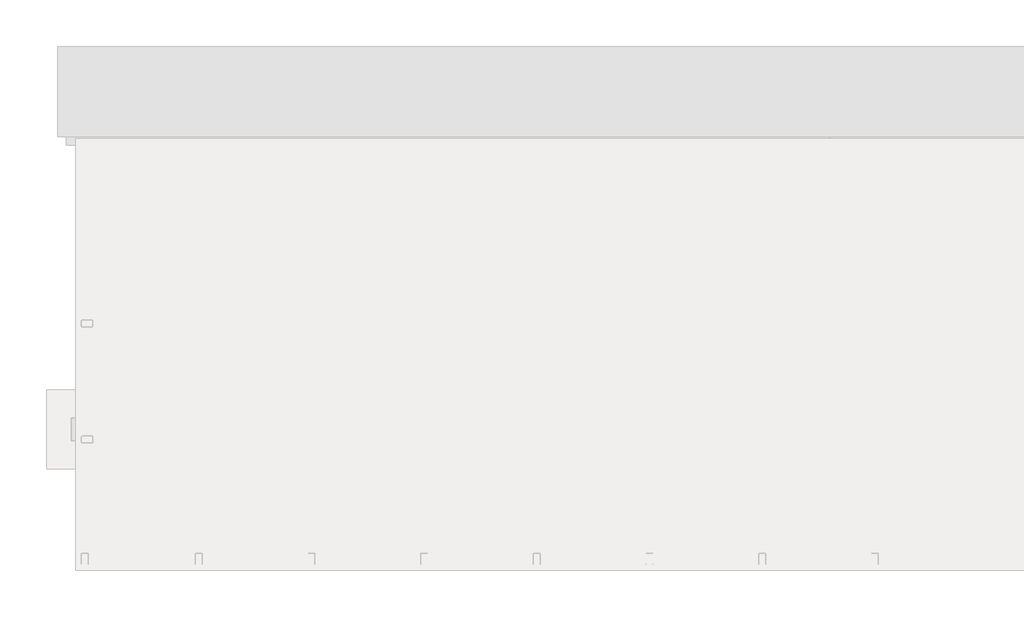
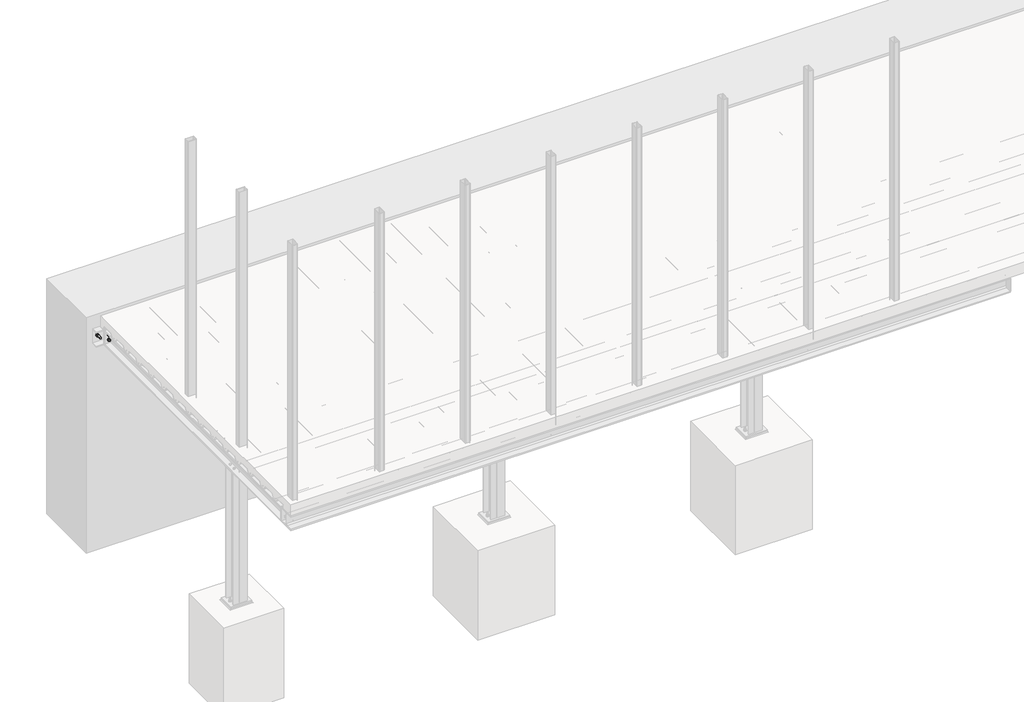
# One storey, part 9 of 36: 9 proxies.
"""IFC4 building model written with IfcOpenShell, lengths in millimetres."""

from ifc_helpers import new_model, si_unit, point, frame, frame_2d, origin, place, context, project, spatial, polyline, circle_curve, trimmed, segment, composite_curve, outline, extrude, element, save

model = new_model("IFC4")

# Units and contexts
model_context = context("Model", 3, world=origin())
ifc_project = project(units=[si_unit("LENGTHUNIT", "METRE", prefix="MILLI")], contexts=[model_context])

# Site, building, storey
site = spatial("IfcSite", under=ifc_project)
building = spatial("IfcBuilding", under=site)
storey = spatial("IfcBuildingStorey", under=building, Name="Základy", Elevation=-1200.0)

# Proxies
placement = place(None, origin())
element("IfcBuildingElementProxy", 1, Name="PLECH", ObjectType="PLECH", at=placement, inside=storey, context=model_context, shape_type="SweptSolid", body=[
    extrude(outline(polyline([(5940.0, 1200.0), (5940.0, 1320.0), (5950.0, 1320.0), (5950.0, 1200.0), (5940.0, 1200.0)])), frame((0.0, 0.0, -299.0), z_axis=(0.0, 0.0, 1.0), x_axis=(1.0, 0.0, 0.0)), (0.0, 0.0, 1.0), 98.0),
])
element("IfcBuildingElementProxy", 2, Name="PLECH", ObjectType="PLECH", at=placement, inside=storey, context=model_context, shape_type="SweptSolid", body=[
    extrude(outline(polyline([(2960.0, 3775.0), (3140.0, 3775.0), (3140.0, 3767.0), (2960.0, 3767.0), (2960.0, 3775.0)])), frame((0.0, 0.0, -316.0), z_axis=(0.0, 0.0, 1.0), x_axis=(1.0, 0.0, 0.0)), (0.0, 0.0, 1.0), 132.0),
])
element("IfcBuildingElementProxy", 3, Name="PLECH", ObjectType="PLECH", at=placement, inside=storey, context=model_context, shape_type="SweptSolid", body=[
    extrude(outline(polyline([(5950.0, 1200.0), (5950.0, 1320.0), (5960.0, 1320.0), (5960.0, 1200.0), (5950.0, 1200.0)])), frame((0.0, 0.0, -332.0), z_axis=(0.0, 0.0, 1.0), x_axis=(1.0, 0.0, 0.0)), (0.0, 0.0, 1.0), 164.0),
])
element("IfcBuildingElementProxy", 4, Name="PLECH", ObjectType="PLECH", at=placement, inside=storey, context=model_context, shape_type="SweptSolid", body=[
    extrude(outline(composite_curve([segment(polyline([(3785.0, -170.5), (3834.5, -170.5)]), True, "CONTINUOUS"), segment(trimmed(circle_curve(frame_2d((3854.5, -170.5)), 20.0), [point((3834.5, -170.5))], [point((3854.5, -190.5))], True, "CARTESIAN"), True, "CONTINUOUS"), segment(polyline([(3854.5, -190.5), (3854.5, -309.5)]), True, "CONTINUOUS"), segment(trimmed(circle_curve(frame_2d((3854.5, -329.5)), 20.0), [point((3854.5, -309.5))], [point((3834.5, -329.5))], True, "CARTESIAN"), True, "CONTINUOUS"), segment(polyline([(3834.5, -329.5), (3785.0, -329.5), (3785.0, -170.5)]), True, "CONTINUOUS")], self_intersect=False)), frame((3046.0, 0.0, 0.0), z_axis=(1.0, 0.0, 0.0), x_axis=(0.0, 1.0, 0.0)), (0.0, 0.0, 1.0), 8.0),
])
element("IfcBuildingElementProxy", 5, Name="PLECH", ObjectType="PLECH", at=placement, inside=storey, context=model_context, shape_type="SweptSolid", body=[
    extrude(outline(polyline([(2960.0, 3785.0), (3140.0, 3785.0), (3140.0, 3775.0), (2960.0, 3775.0), (2960.0, 3785.0)])), frame((0.0, 0.0, -332.0), z_axis=(0.0, 0.0, 1.0), x_axis=(1.0, 0.0, 0.0)), (0.0, 0.0, 1.0), 164.0),
])
element("IfcBuildingElementProxy", 6, Name="Bolt assembly", ObjectType="Bolt assembly", at=placement, inside=storey, context=model_context, shape_type="SweptSolid", body=[
    extrude(outline(composite_curve([segment(trimmed(circle_curve(frame_2d((-220.0, 3005.0)), 9.0), [point((-220.0, 3014.0))], [point((-220.0, 2996.0))], False, "CARTESIAN"), True, "CONTINUOUS"), segment(trimmed(circle_curve(frame_2d((-220.0, 3005.0)), 9.0), [point((-220.0, 2996.0))], [point((-220.0, 3014.0))], False, "CARTESIAN"), True, "CONTINUOUS")], self_intersect=False)), frame((0.0, 3774.9, 0.0), z_axis=(0.0, 1.0, 0.0), x_axis=(0.0, 0.0, 1.0)), (0.0, 0.0, 1.0), 10.0),
    extrude(outline(polyline([(-220.0, 3018.8564065), (-208.0, 3011.9282032), (-208.0, 2998.0717968), (-220.0, 2991.1435935), (-232.0, 2998.0717968), (-232.0, 3011.9282032), (-220.0, 3018.8564065)])), frame((0.0, 3788.0, 0.0), z_axis=(0.0, 1.0, 0.0), x_axis=(0.0, 0.0, 1.0)), (0.0, 0.0, 1.0), 10.0),
    extrude(outline(composite_curve([segment(trimmed(circle_curve(frame_2d((-220.0, 3005.0)), 8.0), [point((-220.0, 3013.0))], [point((-220.0, 2997.0))], False, "CARTESIAN"), True, "CONTINUOUS"), segment(trimmed(circle_curve(frame_2d((-220.0, 3005.0)), 8.0), [point((-220.0, 2997.0))], [point((-220.0, 3013.0))], False, "CARTESIAN"), True, "CONTINUOUS")], self_intersect=False)), frame((0.0, 3738.0, 0.0), z_axis=(0.0, 1.0, 0.0), x_axis=(0.0, 0.0, 1.0)), (0.0, 0.0, 1.0), 50.0),
    extrude(outline(composite_curve([segment(trimmed(circle_curve(frame_2d((-220.0, 3005.0)), 15.0), [point((-220.0, 3020.0))], [point((-220.0, 2990.0))], False, "CARTESIAN"), True, "CONTINUOUS"), segment(trimmed(circle_curve(frame_2d((-220.0, 3005.0)), 15.0), [point((-220.0, 2990.0))], [point((-220.0, 3020.0))], False, "CARTESIAN"), True, "CONTINUOUS")], self_intersect=False)), frame((0.0, 3785.0, 0.0), z_axis=(0.0, 1.0, 0.0), x_axis=(0.0, 0.0, 1.0)), (0.0, 0.0, 1.0), 3.0),
    extrude(outline(composite_curve([segment(trimmed(circle_curve(frame_2d((-220.0, 3005.0)), 15.0), [point((-220.0, 3020.0))], [point((-220.0, 2990.0))], False, "CARTESIAN"), True, "CONTINUOUS"), segment(trimmed(circle_curve(frame_2d((-220.0, 3005.0)), 15.0), [point((-220.0, 2990.0))], [point((-220.0, 3020.0))], False, "CARTESIAN"), True, "CONTINUOUS")], self_intersect=False)), frame((0.0, 3764.0, 0.0), z_axis=(0.0, 1.0, 0.0), x_axis=(0.0, 0.0, 1.0)), (0.0, 0.0, 1.0), 3.0),
    extrude(outline(polyline([(-220.0, 3020.4441197), (-206.625, 3012.7220599), (-206.625, 2997.2779401), (-220.0, 2989.5558803), (-233.375, 2997.2779401), (-233.375, 3012.7220599), (-220.0, 3020.4441197)])), frame((0.0, 3751.0, 0.0), z_axis=(0.0, 1.0, 0.0), x_axis=(0.0, 0.0, 1.0)), (0.0, 0.0, 1.0), 13.0),
    extrude(outline(composite_curve([segment(trimmed(circle_curve(frame_2d((-220.0, 3005.0)), 9.0), [point((-220.0, 3014.0))], [point((-220.0, 2996.0))], False, "CARTESIAN"), True, "CONTINUOUS"), segment(trimmed(circle_curve(frame_2d((-220.0, 3005.0)), 9.0), [point((-220.0, 2996.0))], [point((-220.0, 3014.0))], False, "CARTESIAN"), True, "CONTINUOUS")], self_intersect=False)), frame((0.0, 3767.0, 0.0), z_axis=(0.0, 1.0, 0.0), x_axis=(0.0, 0.0, 1.0)), (0.0, 0.0, 1.0), 8.1),
    extrude(outline(composite_curve([segment(trimmed(circle_curve(frame_2d((-220.0, 3095.0)), 9.0), [point((-220.0, 3104.0))], [point((-220.0, 3086.0))], False, "CARTESIAN"), True, "CONTINUOUS"), segment(trimmed(circle_curve(frame_2d((-220.0, 3095.0)), 9.0), [point((-220.0, 3086.0))], [point((-220.0, 3104.0))], False, "CARTESIAN"), True, "CONTINUOUS")], self_intersect=False)), frame((0.0, 3774.9, 0.0), z_axis=(0.0, 1.0, 0.0), x_axis=(0.0, 0.0, 1.0)), (0.0, 0.0, 1.0), 10.0),
    extrude(outline(polyline([(-220.0, 3108.8564065), (-208.0, 3101.9282032), (-208.0, 3088.0717968), (-220.0, 3081.1435935), (-232.0, 3088.0717968), (-232.0, 3101.9282032), (-220.0, 3108.8564065)])), frame((0.0, 3788.0, 0.0), z_axis=(0.0, 1.0, 0.0), x_axis=(0.0, 0.0, 1.0)), (0.0, 0.0, 1.0), 10.0),
    extrude(outline(composite_curve([segment(trimmed(circle_curve(frame_2d((-220.0, 3095.0)), 8.0), [point((-220.0, 3103.0))], [point((-220.0, 3087.0))], False, "CARTESIAN"), True, "CONTINUOUS"), segment(trimmed(circle_curve(frame_2d((-220.0, 3095.0)), 8.0), [point((-220.0, 3087.0))], [point((-220.0, 3103.0))], False, "CARTESIAN"), True, "CONTINUOUS")], self_intersect=False)), frame((0.0, 3738.0, 0.0), z_axis=(0.0, 1.0, 0.0), x_axis=(0.0, 0.0, 1.0)), (0.0, 0.0, 1.0), 50.0),
    extrude(outline(composite_curve([segment(trimmed(circle_curve(frame_2d((-220.0, 3095.0)), 15.0), [point((-220.0, 3110.0))], [point((-220.0, 3080.0))], False, "CARTESIAN"), True, "CONTINUOUS"), segment(trimmed(circle_curve(frame_2d((-220.0, 3095.0)), 15.0), [point((-220.0, 3080.0))], [point((-220.0, 3110.0))], False, "CARTESIAN"), True, "CONTINUOUS")], self_intersect=False)), frame((0.0, 3785.0, 0.0), z_axis=(0.0, 1.0, 0.0), x_axis=(0.0, 0.0, 1.0)), (0.0, 0.0, 1.0), 3.0),
    extrude(outline(composite_curve([segment(trimmed(circle_curve(frame_2d((-220.0, 3095.0)), 15.0), [point((-220.0, 3110.0))], [point((-220.0, 3080.0))], False, "CARTESIAN"), True, "CONTINUOUS"), segment(trimmed(circle_curve(frame_2d((-220.0, 3095.0)), 15.0), [point((-220.0, 3080.0))], [point((-220.0, 3110.0))], False, "CARTESIAN"), True, "CONTINUOUS")], self_intersect=False)), frame((0.0, 3764.0, 0.0), z_axis=(0.0, 1.0, 0.0), x_axis=(0.0, 0.0, 1.0)), (0.0, 0.0, 1.0), 3.0),
    extrude(outline(polyline([(-220.0, 3110.4441197), (-206.625, 3102.7220599), (-206.625, 3087.2779401), (-220.0, 3079.5558803), (-233.375, 3087.2779401), (-233.375, 3102.7220599), (-220.0, 3110.4441197)])), frame((0.0, 3751.0, 0.0), z_axis=(0.0, 1.0, 0.0), x_axis=(0.0, 0.0, 1.0)), (0.0, 0.0, 1.0), 13.0),
    extrude(outline(composite_curve([segment(trimmed(circle_curve(frame_2d((-220.0, 3095.0)), 9.0), [point((-220.0, 3104.0))], [point((-220.0, 3086.0))], False, "CARTESIAN"), True, "CONTINUOUS"), segment(trimmed(circle_curve(frame_2d((-220.0, 3095.0)), 9.0), [point((-220.0, 3086.0))], [point((-220.0, 3104.0))], False, "CARTESIAN"), True, "CONTINUOUS")], self_intersect=False)), frame((0.0, 3767.0, 0.0), z_axis=(0.0, 1.0, 0.0), x_axis=(0.0, 0.0, 1.0)), (0.0, 0.0, 1.0), 8.1),
    extrude(outline(composite_curve([segment(trimmed(circle_curve(frame_2d((-280.0, 3005.0)), 9.0), [point((-280.0, 3014.0))], [point((-280.0, 2996.0))], False, "CARTESIAN"), True, "CONTINUOUS"), segment(trimmed(circle_curve(frame_2d((-280.0, 3005.0)), 9.0), [point((-280.0, 2996.0))], [point((-280.0, 3014.0))], False, "CARTESIAN"), True, "CONTINUOUS")], self_intersect=False)), frame((0.0, 3774.9, 0.0), z_axis=(0.0, 1.0, 0.0), x_axis=(0.0, 0.0, 1.0)), (0.0, 0.0, 1.0), 10.0),
    extrude(outline(polyline([(-280.0, 3018.8564065), (-268.0, 3011.9282032), (-268.0, 2998.0717968), (-280.0, 2991.1435935), (-292.0, 2998.0717968), (-292.0, 3011.9282032), (-280.0, 3018.8564065)])), frame((0.0, 3788.0, 0.0), z_axis=(0.0, 1.0, 0.0), x_axis=(0.0, 0.0, 1.0)), (0.0, 0.0, 1.0), 10.0),
    extrude(outline(composite_curve([segment(trimmed(circle_curve(frame_2d((-280.0, 3005.0)), 8.0), [point((-280.0, 3013.0))], [point((-280.0, 2997.0))], False, "CARTESIAN"), True, "CONTINUOUS"), segment(trimmed(circle_curve(frame_2d((-280.0, 3005.0)), 8.0), [point((-280.0, 2997.0))], [point((-280.0, 3013.0))], False, "CARTESIAN"), True, "CONTINUOUS")], self_intersect=False)), frame((0.0, 3738.0, 0.0), z_axis=(0.0, 1.0, 0.0), x_axis=(0.0, 0.0, 1.0)), (0.0, 0.0, 1.0), 50.0),
    extrude(outline(composite_curve([segment(trimmed(circle_curve(frame_2d((-280.0, 3005.0)), 15.0), [point((-280.0, 3020.0))], [point((-280.0, 2990.0))], False, "CARTESIAN"), True, "CONTINUOUS"), segment(trimmed(circle_curve(frame_2d((-280.0, 3005.0)), 15.0), [point((-280.0, 2990.0))], [point((-280.0, 3020.0))], False, "CARTESIAN"), True, "CONTINUOUS")], self_intersect=False)), frame((0.0, 3785.0, 0.0), z_axis=(0.0, 1.0, 0.0), x_axis=(0.0, 0.0, 1.0)), (0.0, 0.0, 1.0), 3.0),
    extrude(outline(composite_curve([segment(trimmed(circle_curve(frame_2d((-280.0, 3005.0)), 15.0), [point((-280.0, 3020.0))], [point((-280.0, 2990.0))], False, "CARTESIAN"), True, "CONTINUOUS"), segment(trimmed(circle_curve(frame_2d((-280.0, 3005.0)), 15.0), [point((-280.0, 2990.0))], [point((-280.0, 3020.0))], False, "CARTESIAN"), True, "CONTINUOUS")], self_intersect=False)), frame((0.0, 3764.0, 0.0), z_axis=(0.0, 1.0, 0.0), x_axis=(0.0, 0.0, 1.0)), (0.0, 0.0, 1.0), 3.0),
    extrude(outline(polyline([(-280.0, 3020.4441197), (-266.625, 3012.7220599), (-266.625, 2997.2779401), (-280.0, 2989.5558803), (-293.375, 2997.2779401), (-293.375, 3012.7220599), (-280.0, 3020.4441197)])), frame((0.0, 3751.0, 0.0), z_axis=(0.0, 1.0, 0.0), x_axis=(0.0, 0.0, 1.0)), (0.0, 0.0, 1.0), 13.0),
    extrude(outline(composite_curve([segment(trimmed(circle_curve(frame_2d((-280.0, 3005.0)), 9.0), [point((-280.0, 3014.0))], [point((-280.0, 2996.0))], False, "CARTESIAN"), True, "CONTINUOUS"), segment(trimmed(circle_curve(frame_2d((-280.0, 3005.0)), 9.0), [point((-280.0, 2996.0))], [point((-280.0, 3014.0))], False, "CARTESIAN"), True, "CONTINUOUS")], self_intersect=False)), frame((0.0, 3767.0, 0.0), z_axis=(0.0, 1.0, 0.0), x_axis=(0.0, 0.0, 1.0)), (0.0, 0.0, 1.0), 8.1),
    extrude(outline(composite_curve([segment(trimmed(circle_curve(frame_2d((-280.0, 3095.0)), 9.0), [point((-280.0, 3104.0))], [point((-280.0, 3086.0))], False, "CARTESIAN"), True, "CONTINUOUS"), segment(trimmed(circle_curve(frame_2d((-280.0, 3095.0)), 9.0), [point((-280.0, 3086.0))], [point((-280.0, 3104.0))], False, "CARTESIAN"), True, "CONTINUOUS")], self_intersect=False)), frame((0.0, 3774.9, 0.0), z_axis=(0.0, 1.0, 0.0), x_axis=(0.0, 0.0, 1.0)), (0.0, 0.0, 1.0), 10.0),
    extrude(outline(polyline([(-280.0, 3108.8564065), (-268.0, 3101.9282032), (-268.0, 3088.0717968), (-280.0, 3081.1435935), (-292.0, 3088.0717968), (-292.0, 3101.9282032), (-280.0, 3108.8564065)])), frame((0.0, 3788.0, 0.0), z_axis=(0.0, 1.0, 0.0), x_axis=(0.0, 0.0, 1.0)), (0.0, 0.0, 1.0), 10.0),
    extrude(outline(composite_curve([segment(trimmed(circle_curve(frame_2d((-280.0, 3095.0)), 8.0), [point((-280.0, 3103.0))], [point((-280.0, 3087.0))], False, "CARTESIAN"), True, "CONTINUOUS"), segment(trimmed(circle_curve(frame_2d((-280.0, 3095.0)), 8.0), [point((-280.0, 3087.0))], [point((-280.0, 3103.0))], False, "CARTESIAN"), True, "CONTINUOUS")], self_intersect=False)), frame((0.0, 3738.0, 0.0), z_axis=(0.0, 1.0, 0.0), x_axis=(0.0, 0.0, 1.0)), (0.0, 0.0, 1.0), 50.0),
    extrude(outline(composite_curve([segment(trimmed(circle_curve(frame_2d((-280.0, 3095.0)), 15.0), [point((-280.0, 3110.0))], [point((-280.0, 3080.0))], False, "CARTESIAN"), True, "CONTINUOUS"), segment(trimmed(circle_curve(frame_2d((-280.0, 3095.0)), 15.0), [point((-280.0, 3080.0))], [point((-280.0, 3110.0))], False, "CARTESIAN"), True, "CONTINUOUS")], self_intersect=False)), frame((0.0, 3785.0, 0.0), z_axis=(0.0, 1.0, 0.0), x_axis=(0.0, 0.0, 1.0)), (0.0, 0.0, 1.0), 3.0),
    extrude(outline(composite_curve([segment(trimmed(circle_curve(frame_2d((-280.0, 3095.0)), 15.0), [point((-280.0, 3110.0))], [point((-280.0, 3080.0))], False, "CARTESIAN"), True, "CONTINUOUS"), segment(trimmed(circle_curve(frame_2d((-280.0, 3095.0)), 15.0), [point((-280.0, 3080.0))], [point((-280.0, 3110.0))], False, "CARTESIAN"), True, "CONTINUOUS")], self_intersect=False)), frame((0.0, 3764.0, 0.0), z_axis=(0.0, 1.0, 0.0), x_axis=(0.0, 0.0, 1.0)), (0.0, 0.0, 1.0), 3.0),
    extrude(outline(polyline([(-280.0, 3110.4441197), (-266.625, 3102.7220599), (-266.625, 3087.2779401), (-280.0, 3079.5558803), (-293.375, 3087.2779401), (-293.375, 3102.7220599), (-280.0, 3110.4441197)])), frame((0.0, 3751.0, 0.0), z_axis=(0.0, 1.0, 0.0), x_axis=(0.0, 0.0, 1.0)), (0.0, 0.0, 1.0), 13.0),
    extrude(outline(composite_curve([segment(trimmed(circle_curve(frame_2d((-280.0, 3095.0)), 9.0), [point((-280.0, 3104.0))], [point((-280.0, 3086.0))], False, "CARTESIAN"), True, "CONTINUOUS"), segment(trimmed(circle_curve(frame_2d((-280.0, 3095.0)), 9.0), [point((-280.0, 3086.0))], [point((-280.0, 3104.0))], False, "CARTESIAN"), True, "CONTINUOUS")], self_intersect=False)), frame((0.0, 3767.0, 0.0), z_axis=(0.0, 1.0, 0.0), x_axis=(0.0, 0.0, 1.0)), (0.0, 0.0, 1.0), 8.1),
])
element("IfcBuildingElementProxy", 7, Name="Bolt assembly", ObjectType="Bolt assembly", at=placement, inside=storey, context=model_context, shape_type="SweptSolid", body=[
    extrude(outline(composite_curve([segment(trimmed(circle_curve(frame_2d((-220.0, 5.0)), 9.0), [point((-220.0, 14.0))], [point((-220.0, -4.0))], False, "CARTESIAN"), True, "CONTINUOUS"), segment(trimmed(circle_curve(frame_2d((-220.0, 5.0)), 9.0), [point((-220.0, -4.0))], [point((-220.0, 14.0))], False, "CARTESIAN"), True, "CONTINUOUS")], self_intersect=False)), frame((0.0, 3774.9, 0.0), z_axis=(0.0, 1.0, 0.0), x_axis=(0.0, 0.0, 1.0)), (0.0, 0.0, 1.0), 10.0),
    extrude(outline(polyline([(-220.0, 18.8564065), (-208.0, 11.9282032), (-208.0, -1.9282032), (-220.0, -8.8564065), (-232.0, -1.9282032), (-232.0, 11.9282032), (-220.0, 18.8564065)])), frame((0.0, 3788.0, 0.0), z_axis=(0.0, 1.0, 0.0), x_axis=(0.0, 0.0, 1.0)), (0.0, 0.0, 1.0), 10.0),
    extrude(outline(composite_curve([segment(trimmed(circle_curve(frame_2d((-220.0, 5.0)), 8.0), [point((-220.0, 13.0))], [point((-220.0, -3.0))], False, "CARTESIAN"), True, "CONTINUOUS"), segment(trimmed(circle_curve(frame_2d((-220.0, 5.0)), 8.0), [point((-220.0, -3.0))], [point((-220.0, 13.0))], False, "CARTESIAN"), True, "CONTINUOUS")], self_intersect=False)), frame((0.0, 3738.0, 0.0), z_axis=(0.0, 1.0, 0.0), x_axis=(0.0, 0.0, 1.0)), (0.0, 0.0, 1.0), 50.0),
    extrude(outline(composite_curve([segment(trimmed(circle_curve(frame_2d((-220.0, 5.0)), 15.0), [point((-220.0, 20.0))], [point((-220.0, -10.0))], False, "CARTESIAN"), True, "CONTINUOUS"), segment(trimmed(circle_curve(frame_2d((-220.0, 5.0)), 15.0), [point((-220.0, -10.0))], [point((-220.0, 20.0))], False, "CARTESIAN"), True, "CONTINUOUS")], self_intersect=False)), frame((0.0, 3785.0, 0.0), z_axis=(0.0, 1.0, 0.0), x_axis=(0.0, 0.0, 1.0)), (0.0, 0.0, 1.0), 3.0),
    extrude(outline(composite_curve([segment(trimmed(circle_curve(frame_2d((-220.0, 5.0)), 15.0), [point((-220.0, 20.0))], [point((-220.0, -10.0))], False, "CARTESIAN"), True, "CONTINUOUS"), segment(trimmed(circle_curve(frame_2d((-220.0, 5.0)), 15.0), [point((-220.0, -10.0))], [point((-220.0, 20.0))], False, "CARTESIAN"), True, "CONTINUOUS")], self_intersect=False)), frame((0.0, 3764.0, 0.0), z_axis=(0.0, 1.0, 0.0), x_axis=(0.0, 0.0, 1.0)), (0.0, 0.0, 1.0), 3.0),
    extrude(outline(polyline([(-220.0, 20.4441197), (-206.625, 12.7220599), (-206.625, -2.7220599), (-220.0, -10.4441197), (-233.375, -2.7220599), (-233.375, 12.7220599), (-220.0, 20.4441197)])), frame((0.0, 3751.0, 0.0), z_axis=(0.0, 1.0, 0.0), x_axis=(0.0, 0.0, 1.0)), (0.0, 0.0, 1.0), 13.0),
    extrude(outline(composite_curve([segment(trimmed(circle_curve(frame_2d((-220.0, 5.0)), 9.0), [point((-220.0, 14.0))], [point((-220.0, -4.0))], False, "CARTESIAN"), True, "CONTINUOUS"), segment(trimmed(circle_curve(frame_2d((-220.0, 5.0)), 9.0), [point((-220.0, -4.0))], [point((-220.0, 14.0))], False, "CARTESIAN"), True, "CONTINUOUS")], self_intersect=False)), frame((0.0, 3767.0, 0.0), z_axis=(0.0, 1.0, 0.0), x_axis=(0.0, 0.0, 1.0)), (0.0, 0.0, 1.0), 8.1),
    extrude(outline(composite_curve([segment(trimmed(circle_curve(frame_2d((-220.0, 95.0)), 9.0), [point((-220.0, 104.0))], [point((-220.0, 86.0))], False, "CARTESIAN"), True, "CONTINUOUS"), segment(trimmed(circle_curve(frame_2d((-220.0, 95.0)), 9.0), [point((-220.0, 86.0))], [point((-220.0, 104.0))], False, "CARTESIAN"), True, "CONTINUOUS")], self_intersect=False)), frame((0.0, 3774.9, 0.0), z_axis=(0.0, 1.0, 0.0), x_axis=(0.0, 0.0, 1.0)), (0.0, 0.0, 1.0), 10.0),
    extrude(outline(polyline([(-220.0, 108.8564065), (-208.0, 101.9282032), (-208.0, 88.0717968), (-220.0, 81.1435935), (-232.0, 88.0717968), (-232.0, 101.9282032), (-220.0, 108.8564065)])), frame((0.0, 3788.0, 0.0), z_axis=(0.0, 1.0, 0.0), x_axis=(0.0, 0.0, 1.0)), (0.0, 0.0, 1.0), 10.0),
    extrude(outline(composite_curve([segment(trimmed(circle_curve(frame_2d((-220.0, 95.0)), 8.0), [point((-220.0, 103.0))], [point((-220.0, 87.0))], False, "CARTESIAN"), True, "CONTINUOUS"), segment(trimmed(circle_curve(frame_2d((-220.0, 95.0)), 8.0), [point((-220.0, 87.0))], [point((-220.0, 103.0))], False, "CARTESIAN"), True, "CONTINUOUS")], self_intersect=False)), frame((0.0, 3738.0, 0.0), z_axis=(0.0, 1.0, 0.0), x_axis=(0.0, 0.0, 1.0)), (0.0, 0.0, 1.0), 50.0),
    extrude(outline(composite_curve([segment(trimmed(circle_curve(frame_2d((-220.0, 95.0)), 15.0), [point((-220.0, 110.0))], [point((-220.0, 80.0))], False, "CARTESIAN"), True, "CONTINUOUS"), segment(trimmed(circle_curve(frame_2d((-220.0, 95.0)), 15.0), [point((-220.0, 80.0))], [point((-220.0, 110.0))], False, "CARTESIAN"), True, "CONTINUOUS")], self_intersect=False)), frame((0.0, 3785.0, 0.0), z_axis=(0.0, 1.0, 0.0), x_axis=(0.0, 0.0, 1.0)), (0.0, 0.0, 1.0), 3.0),
    extrude(outline(composite_curve([segment(trimmed(circle_curve(frame_2d((-220.0, 95.0)), 15.0), [point((-220.0, 110.0))], [point((-220.0, 80.0))], False, "CARTESIAN"), True, "CONTINUOUS"), segment(trimmed(circle_curve(frame_2d((-220.0, 95.0)), 15.0), [point((-220.0, 80.0))], [point((-220.0, 110.0))], False, "CARTESIAN"), True, "CONTINUOUS")], self_intersect=False)), frame((0.0, 3764.0, 0.0), z_axis=(0.0, 1.0, 0.0), x_axis=(0.0, 0.0, 1.0)), (0.0, 0.0, 1.0), 3.0),
    extrude(outline(polyline([(-220.0, 110.4441197), (-206.625, 102.7220599), (-206.625, 87.2779401), (-220.0, 79.5558803), (-233.375, 87.2779401), (-233.375, 102.7220599), (-220.0, 110.4441197)])), frame((0.0, 3751.0, 0.0), z_axis=(0.0, 1.0, 0.0), x_axis=(0.0, 0.0, 1.0)), (0.0, 0.0, 1.0), 13.0),
    extrude(outline(composite_curve([segment(trimmed(circle_curve(frame_2d((-220.0, 95.0)), 9.0), [point((-220.0, 104.0))], [point((-220.0, 86.0))], False, "CARTESIAN"), True, "CONTINUOUS"), segment(trimmed(circle_curve(frame_2d((-220.0, 95.0)), 9.0), [point((-220.0, 86.0))], [point((-220.0, 104.0))], False, "CARTESIAN"), True, "CONTINUOUS")], self_intersect=False)), frame((0.0, 3767.0, 0.0), z_axis=(0.0, 1.0, 0.0), x_axis=(0.0, 0.0, 1.0)), (0.0, 0.0, 1.0), 8.1),
    extrude(outline(composite_curve([segment(trimmed(circle_curve(frame_2d((-280.0, 5.0)), 9.0), [point((-280.0, 14.0))], [point((-280.0, -4.0))], False, "CARTESIAN"), True, "CONTINUOUS"), segment(trimmed(circle_curve(frame_2d((-280.0, 5.0)), 9.0), [point((-280.0, -4.0))], [point((-280.0, 14.0))], False, "CARTESIAN"), True, "CONTINUOUS")], self_intersect=False)), frame((0.0, 3774.9, 0.0), z_axis=(0.0, 1.0, 0.0), x_axis=(0.0, 0.0, 1.0)), (0.0, 0.0, 1.0), 10.0),
    extrude(outline(polyline([(-280.0, 18.8564065), (-268.0, 11.9282032), (-268.0, -1.9282032), (-280.0, -8.8564065), (-292.0, -1.9282032), (-292.0, 11.9282032), (-280.0, 18.8564065)])), frame((0.0, 3788.0, 0.0), z_axis=(0.0, 1.0, 0.0), x_axis=(0.0, 0.0, 1.0)), (0.0, 0.0, 1.0), 10.0),
    extrude(outline(composite_curve([segment(trimmed(circle_curve(frame_2d((-280.0, 5.0)), 8.0), [point((-280.0, 13.0))], [point((-280.0, -3.0))], False, "CARTESIAN"), True, "CONTINUOUS"), segment(trimmed(circle_curve(frame_2d((-280.0, 5.0)), 8.0), [point((-280.0, -3.0))], [point((-280.0, 13.0))], False, "CARTESIAN"), True, "CONTINUOUS")], self_intersect=False)), frame((0.0, 3738.0, 0.0), z_axis=(0.0, 1.0, 0.0), x_axis=(0.0, 0.0, 1.0)), (0.0, 0.0, 1.0), 50.0),
    extrude(outline(composite_curve([segment(trimmed(circle_curve(frame_2d((-280.0, 5.0)), 15.0), [point((-280.0, 20.0))], [point((-280.0, -10.0))], False, "CARTESIAN"), True, "CONTINUOUS"), segment(trimmed(circle_curve(frame_2d((-280.0, 5.0)), 15.0), [point((-280.0, -10.0))], [point((-280.0, 20.0))], False, "CARTESIAN"), True, "CONTINUOUS")], self_intersect=False)), frame((0.0, 3785.0, 0.0), z_axis=(0.0, 1.0, 0.0), x_axis=(0.0, 0.0, 1.0)), (0.0, 0.0, 1.0), 3.0),
    extrude(outline(composite_curve([segment(trimmed(circle_curve(frame_2d((-280.0, 5.0)), 15.0), [point((-280.0, 20.0))], [point((-280.0, -10.0))], False, "CARTESIAN"), True, "CONTINUOUS"), segment(trimmed(circle_curve(frame_2d((-280.0, 5.0)), 15.0), [point((-280.0, -10.0))], [point((-280.0, 20.0))], False, "CARTESIAN"), True, "CONTINUOUS")], self_intersect=False)), frame((0.0, 3764.0, 0.0), z_axis=(0.0, 1.0, 0.0), x_axis=(0.0, 0.0, 1.0)), (0.0, 0.0, 1.0), 3.0),
    extrude(outline(polyline([(-280.0, 20.4441197), (-266.625, 12.7220599), (-266.625, -2.7220599), (-280.0, -10.4441197), (-293.375, -2.7220599), (-293.375, 12.7220599), (-280.0, 20.4441197)])), frame((0.0, 3751.0, 0.0), z_axis=(0.0, 1.0, 0.0), x_axis=(0.0, 0.0, 1.0)), (0.0, 0.0, 1.0), 13.0),
    extrude(outline(composite_curve([segment(trimmed(circle_curve(frame_2d((-280.0, 5.0)), 9.0), [point((-280.0, 14.0))], [point((-280.0, -4.0))], False, "CARTESIAN"), True, "CONTINUOUS"), segment(trimmed(circle_curve(frame_2d((-280.0, 5.0)), 9.0), [point((-280.0, -4.0))], [point((-280.0, 14.0))], False, "CARTESIAN"), True, "CONTINUOUS")], self_intersect=False)), frame((0.0, 3767.0, 0.0), z_axis=(0.0, 1.0, 0.0), x_axis=(0.0, 0.0, 1.0)), (0.0, 0.0, 1.0), 8.1),
    extrude(outline(composite_curve([segment(trimmed(circle_curve(frame_2d((-280.0, 95.0)), 9.0), [point((-280.0, 104.0))], [point((-280.0, 86.0))], False, "CARTESIAN"), True, "CONTINUOUS"), segment(trimmed(circle_curve(frame_2d((-280.0, 95.0)), 9.0), [point((-280.0, 86.0))], [point((-280.0, 104.0))], False, "CARTESIAN"), True, "CONTINUOUS")], self_intersect=False)), frame((0.0, 3774.9, 0.0), z_axis=(0.0, 1.0, 0.0), x_axis=(0.0, 0.0, 1.0)), (0.0, 0.0, 1.0), 10.0),
    extrude(outline(polyline([(-280.0, 108.8564065), (-268.0, 101.9282032), (-268.0, 88.0717968), (-280.0, 81.1435935), (-292.0, 88.0717968), (-292.0, 101.9282032), (-280.0, 108.8564065)])), frame((0.0, 3788.0, 0.0), z_axis=(0.0, 1.0, 0.0), x_axis=(0.0, 0.0, 1.0)), (0.0, 0.0, 1.0), 10.0),
    extrude(outline(composite_curve([segment(trimmed(circle_curve(frame_2d((-280.0, 95.0)), 8.0), [point((-280.0, 103.0))], [point((-280.0, 87.0))], False, "CARTESIAN"), True, "CONTINUOUS"), segment(trimmed(circle_curve(frame_2d((-280.0, 95.0)), 8.0), [point((-280.0, 87.0))], [point((-280.0, 103.0))], False, "CARTESIAN"), True, "CONTINUOUS")], self_intersect=False)), frame((0.0, 3738.0, 0.0), z_axis=(0.0, 1.0, 0.0), x_axis=(0.0, 0.0, 1.0)), (0.0, 0.0, 1.0), 50.0),
    extrude(outline(composite_curve([segment(trimmed(circle_curve(frame_2d((-280.0, 95.0)), 15.0), [point((-280.0, 110.0))], [point((-280.0, 80.0))], False, "CARTESIAN"), True, "CONTINUOUS"), segment(trimmed(circle_curve(frame_2d((-280.0, 95.0)), 15.0), [point((-280.0, 80.0))], [point((-280.0, 110.0))], False, "CARTESIAN"), True, "CONTINUOUS")], self_intersect=False)), frame((0.0, 3785.0, 0.0), z_axis=(0.0, 1.0, 0.0), x_axis=(0.0, 0.0, 1.0)), (0.0, 0.0, 1.0), 3.0),
    extrude(outline(composite_curve([segment(trimmed(circle_curve(frame_2d((-280.0, 95.0)), 15.0), [point((-280.0, 110.0))], [point((-280.0, 80.0))], False, "CARTESIAN"), True, "CONTINUOUS"), segment(trimmed(circle_curve(frame_2d((-280.0, 95.0)), 15.0), [point((-280.0, 80.0))], [point((-280.0, 110.0))], False, "CARTESIAN"), True, "CONTINUOUS")], self_intersect=False)), frame((0.0, 3764.0, 0.0), z_axis=(0.0, 1.0, 0.0), x_axis=(0.0, 0.0, 1.0)), (0.0, 0.0, 1.0), 3.0),
    extrude(outline(polyline([(-280.0, 110.4441197), (-266.625, 102.7220599), (-266.625, 87.2779401), (-280.0, 79.5558803), (-293.375, 87.2779401), (-293.375, 102.7220599), (-280.0, 110.4441197)])), frame((0.0, 3751.0, 0.0), z_axis=(0.0, 1.0, 0.0), x_axis=(0.0, 0.0, 1.0)), (0.0, 0.0, 1.0), 13.0),
    extrude(outline(composite_curve([segment(trimmed(circle_curve(frame_2d((-280.0, 95.0)), 9.0), [point((-280.0, 104.0))], [point((-280.0, 86.0))], False, "CARTESIAN"), True, "CONTINUOUS"), segment(trimmed(circle_curve(frame_2d((-280.0, 95.0)), 9.0), [point((-280.0, 86.0))], [point((-280.0, 104.0))], False, "CARTESIAN"), True, "CONTINUOUS")], self_intersect=False)), frame((0.0, 3767.0, 0.0), z_axis=(0.0, 1.0, 0.0), x_axis=(0.0, 0.0, 1.0)), (0.0, 0.0, 1.0), 8.1),
])
element("IfcBuildingElementProxy", 8, Name="Bolt assembly", ObjectType="Bolt assembly", at=placement, inside=storey, context=model_context, shape_type="SweptSolid", body=[
    extrude(outline(polyline([(-250.0, 2934.8149546), (-241.5, 2929.9074773), (-241.5, 2920.0925227), (-250.0, 2915.1850454), (-258.5, 2920.0925227), (-258.5, 2929.9074773), (-250.0, 2934.8149546)])), frame((0.0, 3860.0, 0.0), z_axis=(0.0, 1.0, 0.0), x_axis=(0.0, 0.0, 1.0)), (0.0, 0.0, 1.0), 168.0),
    extrude(outline(composite_curve([segment(trimmed(circle_curve(frame_2d((-250.0, 2925.0)), 10.0), [point((-250.0, 2935.0))], [point((-250.0, 2915.0))], False, "CARTESIAN"), True, "CONTINUOUS"), segment(trimmed(circle_curve(frame_2d((-250.0, 2925.0)), 10.0), [point((-250.0, 2915.0))], [point((-250.0, 2935.0))], False, "CARTESIAN"), True, "CONTINUOUS")], self_intersect=False)), frame((0.0, 3788.0, 0.0), z_axis=(0.0, 1.0, 0.0), x_axis=(0.0, 0.0, 1.0)), (0.0, 0.0, 1.0), 72.0),
    extrude(outline(composite_curve([segment(trimmed(circle_curve(frame_2d((-250.0, 2925.0)), 18.5), [point((-250.0, 2943.5))], [point((-250.0, 2906.5))], False, "CARTESIAN"), True, "CONTINUOUS"), segment(trimmed(circle_curve(frame_2d((-250.0, 2925.0)), 18.5), [point((-250.0, 2906.5))], [point((-250.0, 2943.5))], False, "CARTESIAN"), True, "CONTINUOUS")], self_intersect=False)), frame((0.0, 3851.5, 0.0), z_axis=(0.0, 1.0, 0.0), x_axis=(0.0, 0.0, 1.0)), (0.0, 0.0, 1.0), 3.0),
    extrude(outline(polyline([(-250.0, 2942.3205081), (-235.0, 2933.660254), (-235.0, 2916.339746), (-250.0, 2907.6794919), (-265.0, 2916.339746), (-265.0, 2933.660254), (-250.0, 2942.3205081)])), frame((0.0, 3835.5, 0.0), z_axis=(0.0, 1.0, 0.0), x_axis=(0.0, 0.0, 1.0)), (0.0, 0.0, 1.0), 16.0),
    extrude(outline(composite_curve([segment(trimmed(circle_curve(frame_2d((-250.0, 2925.0)), 11.0), [point((-250.0, 2936.0))], [point((-250.0, 2914.0))], False, "CARTESIAN"), True, "CONTINUOUS"), segment(trimmed(circle_curve(frame_2d((-250.0, 2925.0)), 11.0), [point((-250.0, 2914.0))], [point((-250.0, 2936.0))], False, "CARTESIAN"), True, "CONTINUOUS")], self_intersect=False)), frame((0.0, 3854.4, 0.0), z_axis=(0.0, 1.0, 0.0), x_axis=(0.0, 0.0, 1.0)), (0.0, 0.0, 1.0), 5.6),
    extrude(outline(polyline([(-250.0, 3184.8149546), (-241.5, 3179.9074773), (-241.5, 3170.0925227), (-250.0, 3165.1850454), (-258.5, 3170.0925227), (-258.5, 3179.9074773), (-250.0, 3184.8149546)])), frame((0.0, 3860.0, 0.0), z_axis=(0.0, 1.0, 0.0), x_axis=(0.0, 0.0, 1.0)), (0.0, 0.0, 1.0), 168.0),
    extrude(outline(composite_curve([segment(trimmed(circle_curve(frame_2d((-250.0, 3175.0)), 10.0), [point((-250.0, 3185.0))], [point((-250.0, 3165.0))], False, "CARTESIAN"), True, "CONTINUOUS"), segment(trimmed(circle_curve(frame_2d((-250.0, 3175.0)), 10.0), [point((-250.0, 3165.0))], [point((-250.0, 3185.0))], False, "CARTESIAN"), True, "CONTINUOUS")], self_intersect=False)), frame((0.0, 3788.0, 0.0), z_axis=(0.0, 1.0, 0.0), x_axis=(0.0, 0.0, 1.0)), (0.0, 0.0, 1.0), 72.0),
    extrude(outline(composite_curve([segment(trimmed(circle_curve(frame_2d((-250.0, 3175.0)), 18.5), [point((-250.0, 3193.5))], [point((-250.0, 3156.5))], False, "CARTESIAN"), True, "CONTINUOUS"), segment(trimmed(circle_curve(frame_2d((-250.0, 3175.0)), 18.5), [point((-250.0, 3156.5))], [point((-250.0, 3193.5))], False, "CARTESIAN"), True, "CONTINUOUS")], self_intersect=False)), frame((0.0, 3851.5, 0.0), z_axis=(0.0, 1.0, 0.0), x_axis=(0.0, 0.0, 1.0)), (0.0, 0.0, 1.0), 3.0),
    extrude(outline(polyline([(-250.0, 3192.3205081), (-235.0, 3183.660254), (-235.0, 3166.339746), (-250.0, 3157.6794919), (-265.0, 3166.339746), (-265.0, 3183.660254), (-250.0, 3192.3205081)])), frame((0.0, 3835.5, 0.0), z_axis=(0.0, 1.0, 0.0), x_axis=(0.0, 0.0, 1.0)), (0.0, 0.0, 1.0), 16.0),
    extrude(outline(composite_curve([segment(trimmed(circle_curve(frame_2d((-250.0, 3175.0)), 11.0), [point((-250.0, 3186.0))], [point((-250.0, 3164.0))], False, "CARTESIAN"), True, "CONTINUOUS"), segment(trimmed(circle_curve(frame_2d((-250.0, 3175.0)), 11.0), [point((-250.0, 3164.0))], [point((-250.0, 3186.0))], False, "CARTESIAN"), True, "CONTINUOUS")], self_intersect=False)), frame((0.0, 3854.4, 0.0), z_axis=(0.0, 1.0, 0.0), x_axis=(0.0, 0.0, 1.0)), (0.0, 0.0, 1.0), 5.6),
])
element("IfcBuildingElementProxy", 9, Name="Bolt assembly", ObjectType="Bolt assembly", at=placement, inside=storey, context=model_context, shape_type="SweptSolid", body=[
    extrude(outline(polyline([(-250.0, -65.1850454), (-241.5, -70.0925227), (-241.5, -79.9074773), (-250.0, -84.8149546), (-258.5, -79.9074773), (-258.5, -70.0925227), (-250.0, -65.1850454)])), frame((0.0, 3860.0, 0.0), z_axis=(0.0, 1.0, 0.0), x_axis=(0.0, 0.0, 1.0)), (0.0, 0.0, 1.0), 168.0),
    extrude(outline(composite_curve([segment(trimmed(circle_curve(frame_2d((-250.0, -75.0)), 10.0), [point((-250.0, -65.0))], [point((-250.0, -85.0))], False, "CARTESIAN"), True, "CONTINUOUS"), segment(trimmed(circle_curve(frame_2d((-250.0, -75.0)), 10.0), [point((-250.0, -85.0))], [point((-250.0, -65.0))], False, "CARTESIAN"), True, "CONTINUOUS")], self_intersect=False)), frame((0.0, 3788.0, 0.0), z_axis=(0.0, 1.0, 0.0), x_axis=(0.0, 0.0, 1.0)), (0.0, 0.0, 1.0), 72.0),
    extrude(outline(composite_curve([segment(trimmed(circle_curve(frame_2d((-250.0, -75.0)), 18.5), [point((-250.0, -56.5))], [point((-250.0, -93.5))], False, "CARTESIAN"), True, "CONTINUOUS"), segment(trimmed(circle_curve(frame_2d((-250.0, -75.0)), 18.5), [point((-250.0, -93.5))], [point((-250.0, -56.5))], False, "CARTESIAN"), True, "CONTINUOUS")], self_intersect=False)), frame((0.0, 3851.5, 0.0), z_axis=(0.0, 1.0, 0.0), x_axis=(0.0, 0.0, 1.0)), (0.0, 0.0, 1.0), 3.0),
    extrude(outline(polyline([(-250.0, -57.6794919), (-235.0, -66.339746), (-235.0, -83.660254), (-250.0, -92.3205081), (-265.0, -83.660254), (-265.0, -66.339746), (-250.0, -57.6794919)])), frame((0.0, 3835.5, 0.0), z_axis=(0.0, 1.0, 0.0), x_axis=(0.0, 0.0, 1.0)), (0.0, 0.0, 1.0), 16.0),
    extrude(outline(composite_curve([segment(trimmed(circle_curve(frame_2d((-250.0, -75.0)), 11.0), [point((-250.0, -64.0))], [point((-250.0, -86.0))], False, "CARTESIAN"), True, "CONTINUOUS"), segment(trimmed(circle_curve(frame_2d((-250.0, -75.0)), 11.0), [point((-250.0, -86.0))], [point((-250.0, -64.0))], False, "CARTESIAN"), True, "CONTINUOUS")], self_intersect=False)), frame((0.0, 3854.4, 0.0), z_axis=(0.0, 1.0, 0.0), x_axis=(0.0, 0.0, 1.0)), (0.0, 0.0, 1.0), 5.6),
    extrude(outline(polyline([(-250.0, 184.8149546), (-241.5, 179.9074773), (-241.5, 170.0925227), (-250.0, 165.1850454), (-258.5, 170.0925227), (-258.5, 179.9074773), (-250.0, 184.8149546)])), frame((0.0, 3860.0, 0.0), z_axis=(0.0, 1.0, 0.0), x_axis=(0.0, 0.0, 1.0)), (0.0, 0.0, 1.0), 168.0),
    extrude(outline(composite_curve([segment(trimmed(circle_curve(frame_2d((-250.0, 175.0)), 10.0), [point((-250.0, 185.0))], [point((-250.0, 165.0))], False, "CARTESIAN"), True, "CONTINUOUS"), segment(trimmed(circle_curve(frame_2d((-250.0, 175.0)), 10.0), [point((-250.0, 165.0))], [point((-250.0, 185.0))], False, "CARTESIAN"), True, "CONTINUOUS")], self_intersect=False)), frame((0.0, 3788.0, 0.0), z_axis=(0.0, 1.0, 0.0), x_axis=(0.0, 0.0, 1.0)), (0.0, 0.0, 1.0), 72.0),
    extrude(outline(composite_curve([segment(trimmed(circle_curve(frame_2d((-250.0, 175.0)), 18.5), [point((-250.0, 193.5))], [point((-250.0, 156.5))], False, "CARTESIAN"), True, "CONTINUOUS"), segment(trimmed(circle_curve(frame_2d((-250.0, 175.0)), 18.5), [point((-250.0, 156.5))], [point((-250.0, 193.5))], False, "CARTESIAN"), True, "CONTINUOUS")], self_intersect=False)), frame((0.0, 3851.5, 0.0), z_axis=(0.0, 1.0, 0.0), x_axis=(0.0, 0.0, 1.0)), (0.0, 0.0, 1.0), 3.0),
    extrude(outline(polyline([(-250.0, 192.3205081), (-235.0, 183.660254), (-235.0, 166.339746), (-250.0, 157.6794919), (-265.0, 166.339746), (-265.0, 183.660254), (-250.0, 192.3205081)])), frame((0.0, 3835.5, 0.0), z_axis=(0.0, 1.0, 0.0), x_axis=(0.0, 0.0, 1.0)), (0.0, 0.0, 1.0), 16.0),
    extrude(outline(composite_curve([segment(trimmed(circle_curve(frame_2d((-250.0, 175.0)), 11.0), [point((-250.0, 186.0))], [point((-250.0, 164.0))], False, "CARTESIAN"), True, "CONTINUOUS"), segment(trimmed(circle_curve(frame_2d((-250.0, 175.0)), 11.0), [point((-250.0, 164.0))], [point((-250.0, 186.0))], False, "CARTESIAN"), True, "CONTINUOUS")], self_intersect=False)), frame((0.0, 3854.4, 0.0), z_axis=(0.0, 1.0, 0.0), x_axis=(0.0, 0.0, 1.0)), (0.0, 0.0, 1.0), 5.6),
])

save(model, "model.ifc")
